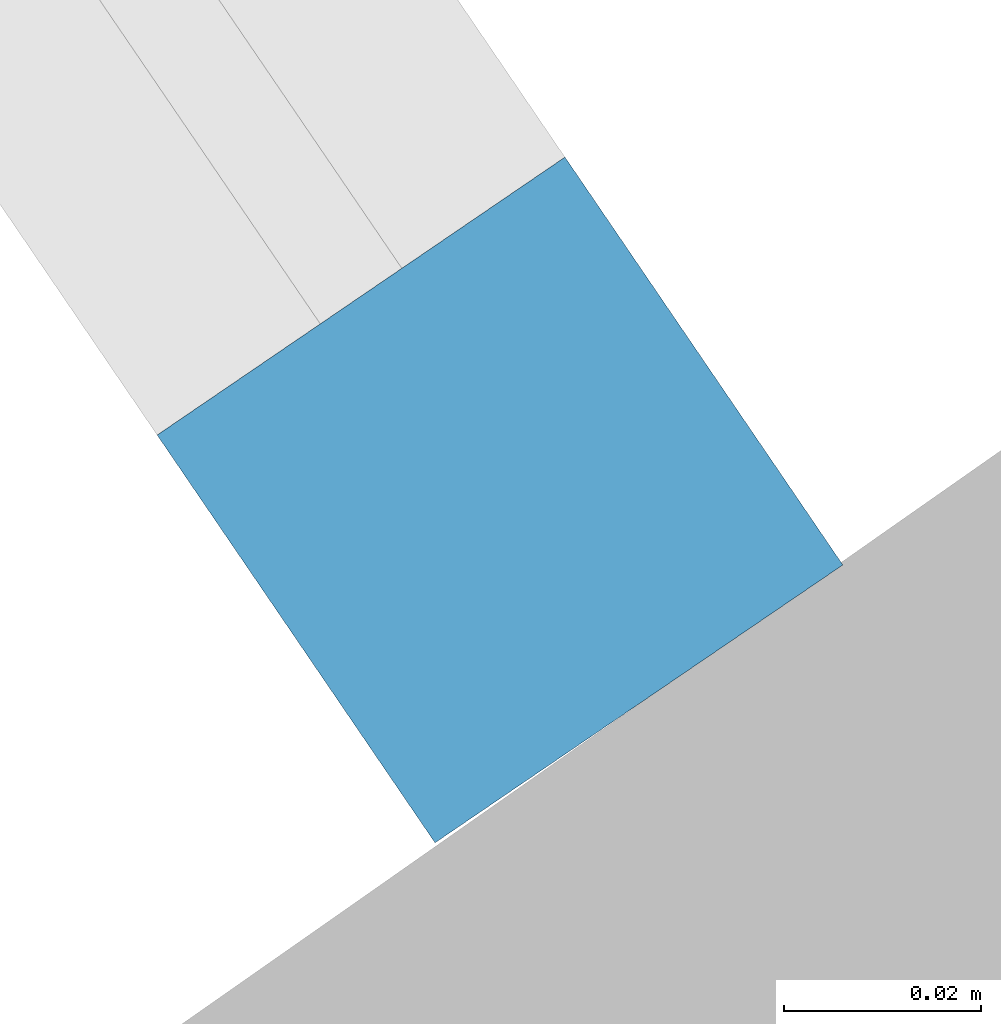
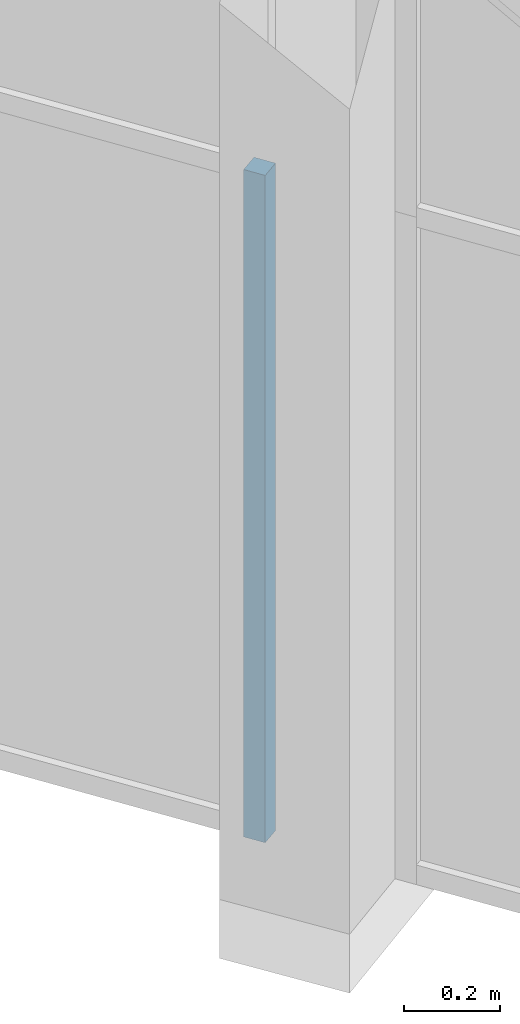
# One storey, part 11 of 157: 1 member, 1 element without a shape of its own.
"""IFC2X3 building model written with IfcOpenShell, lengths in millimetres."""

from ifc_helpers import new_model, entity, si_unit, converted_unit, derived_unit, direction, frame, origin, origin_2d_with_axis, place, context, subcontext, project, spatial, rectangle, extrude, source, transform, mapped, material, type_object, type_shapes, element, aggregate, save


model = new_model("IFC2X3")

# Units and contexts
model_context = context("Model", 3, precision=0.01, world=origin(), true_north=direction((6.123031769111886e-17, 1.0)))
body_context = subcontext(model_context, "Body", "Model", "MODEL_VIEW")
ifc_project = project(units=[si_unit("LENGTHUNIT", "METRE", prefix="MILLI"), si_unit("AREAUNIT", "SQUARE_METRE"), si_unit("VOLUMEUNIT", "CUBIC_METRE"), converted_unit("PLANEANGLEUNIT", "DEGREE", entity("IfcRatioMeasure", 0.017453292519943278), si_unit("PLANEANGLEUNIT", "RADIAN"), dimensions=[0, 0, 0, 0, 0, 0, 0]), si_unit("MASSUNIT", "GRAM", prefix="KILO"), derived_unit("MASSDENSITYUNIT", [(si_unit("MASSUNIT", "GRAM", prefix="KILO"), 1), (si_unit("LENGTHUNIT", "METRE"), -3)]), derived_unit("MOMENTOFINERTIAUNIT", [(si_unit("LENGTHUNIT", "METRE"), 4)]), si_unit("TIMEUNIT", "SECOND"), si_unit("FREQUENCYUNIT", "HERTZ"), si_unit("THERMODYNAMICTEMPERATUREUNIT", "DEGREE_CELSIUS"), derived_unit("THERMALTRANSMITTANCEUNIT", [(si_unit("MASSUNIT", "GRAM", prefix="KILO"), 1), (si_unit("THERMODYNAMICTEMPERATUREUNIT", "KELVIN"), -1), (si_unit("TIMEUNIT", "SECOND"), -3)]), derived_unit("THERMALCONDUCTANCEUNIT", [(si_unit("MASSUNIT", "GRAM", prefix="KILO"), 1), (si_unit("LENGTHUNIT", "METRE"), 1), (si_unit("THERMODYNAMICTEMPERATUREUNIT", "KELVIN"), -1), (si_unit("TIMEUNIT", "SECOND"), -3)]), derived_unit("VOLUMETRICFLOWRATEUNIT", [(si_unit("LENGTHUNIT", "METRE"), 3), (si_unit("TIMEUNIT", "SECOND"), -1)]), derived_unit("MASSFLOWRATEUNIT", [(si_unit("MASSUNIT", "GRAM", prefix="KILO"), 1), (si_unit("TIMEUNIT", "SECOND"), -1)]), derived_unit("ROTATIONALFREQUENCYUNIT", [(si_unit("TIMEUNIT", "SECOND"), -1)]), si_unit("ELECTRICCURRENTUNIT", "AMPERE"), si_unit("ELECTRICVOLTAGEUNIT", "VOLT"), si_unit("POWERUNIT", "WATT"), converted_unit("FORCEUNIT", "KIP", entity("IfcRatioMeasure", 2.088543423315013e-05), si_unit("FORCEUNIT", "NEWTON"), dimensions=[1, 1, -2, 0, 0, 0, 0]), si_unit("ILLUMINANCEUNIT", "LUX"), si_unit("LUMINOUSFLUXUNIT", "LUMEN"), si_unit("LUMINOUSINTENSITYUNIT", "CANDELA"), derived_unit("USERDEFINED", [(si_unit("MASSUNIT", "GRAM", prefix="KILO"), -1), (si_unit("LENGTHUNIT", "METRE"), -2), (si_unit("TIMEUNIT", "SECOND"), 3), (si_unit("LUMINOUSFLUXUNIT", "LUMEN"), 1)]), derived_unit("USERDEFINED", [(si_unit("MASSUNIT", "GRAM", prefix="KILO"), 1), (si_unit("LENGTHUNIT", "METRE"), 3), (si_unit("TIMEUNIT", "SECOND"), -3), (si_unit("ELECTRICCURRENTUNIT", "AMPERE"), -2)]), derived_unit("USERDEFINED", [(si_unit("LENGTHUNIT", "METRE"), 2), (si_unit("TIMEUNIT", "SECOND"), -2)]), derived_unit("SOUNDPOWERUNIT", [(si_unit("MASSUNIT", "GRAM", prefix="KILO"), 1), (si_unit("LENGTHUNIT", "METRE"), 2), (si_unit("TIMEUNIT", "SECOND"), -3)]), derived_unit("SOUNDPRESSUREUNIT", [(si_unit("MASSUNIT", "GRAM", prefix="KILO"), 1), (si_unit("LENGTHUNIT", "METRE"), -1), (si_unit("TIMEUNIT", "SECOND"), -2)]), derived_unit("LINEARVELOCITYUNIT", [(si_unit("LENGTHUNIT", "METRE"), 1), (si_unit("TIMEUNIT", "SECOND"), -1)]), si_unit("PRESSUREUNIT", "PASCAL"), derived_unit("USERDEFINED", [(si_unit("LENGTHUNIT", "METRE"), -2), (si_unit("MASSUNIT", "GRAM", prefix="KILO"), 1), (si_unit("TIMEUNIT", "SECOND"), -2)]), derived_unit("LINEARFORCEUNIT", [(si_unit("MASSUNIT", "GRAM", prefix="KILO"), 1), (si_unit("LENGTHUNIT", "METRE"), 1), (si_unit("TIMEUNIT", "SECOND"), -2), (si_unit("LENGTHUNIT", "METRE"), -1)]), derived_unit("PLANARFORCEUNIT", [(si_unit("MASSUNIT", "GRAM", prefix="KILO"), 1), (si_unit("LENGTHUNIT", "METRE"), 1), (si_unit("TIMEUNIT", "SECOND"), -2), (si_unit("LENGTHUNIT", "METRE"), -2)]), derived_unit("SPECIFICHEATCAPACITYUNIT", [(si_unit("LENGTHUNIT", "METRE"), 2), (si_unit("TIMEUNIT", "SECOND"), -2), (si_unit("THERMODYNAMICTEMPERATUREUNIT", "KELVIN"), -1)]), derived_unit("VAPORPERMEABILITYUNIT", [(si_unit("TIMEUNIT", "SECOND"), 1), (si_unit("LENGTHUNIT", "METRE"), -1)]), derived_unit("DYNAMICVISCOSITYUNIT", [(si_unit("MASSUNIT", "GRAM", prefix="KILO"), 1), (si_unit("LENGTHUNIT", "METRE"), -1), (si_unit("TIMEUNIT", "SECOND"), -1)]), derived_unit("THERMALEXPANSIONCOEFFICIENTUNIT", [(si_unit("THERMODYNAMICTEMPERATUREUNIT", "KELVIN"), -1)])], contexts=[model_context])

# Site, building, storey
site_placement = place(None, frame((0.0, 0.0, 0.0), z_axis=(0.0, 0.0, 1.0), x_axis=(0.8191520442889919, 0.5735764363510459, 0.0)))
site = spatial("IfcSite", under=ifc_project, at=site_placement, Name="Default", CompositionType="ELEMENT")
building_placement = place(site_placement, origin())
building = spatial("IfcBuilding", under=site, at=building_placement, CompositionType="ELEMENT")
storey_placement = place(building_placement, origin())
storey = spatial("IfcBuildingStorey", under=building, at=storey_placement, Name="1.EG +0.00", CompositionType="ELEMENT", Elevation=-4.331468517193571e-12)

# Curtain wall, member
curtain_wall_type = type_object("IfcCurtainWallType", Name="Curtain Wall:Curtain_Wall_CJC 2", PredefinedType="NOTDEFINED")
curtain_wall_placement = place(storey_placement, origin())
curtain_wall = element("IfcCurtainWall", 1, at=curtain_wall_placement, inside=storey, type_object=curtain_wall_type, Name="Curtain Wall:Curtain_Wall_CJC 2", ObjectType="Curtain Wall:Curtain_Wall_CJC 2")
ifc_material = material(Name="Aluminium")
member_type = type_object("IfcMemberType", Name="Rectangular Mullion:5x5", PredefinedType="MULLION", material=ifc_material)
shared_shape = source(origin(), body_context, "Body", "SweptSolid", [
    extrude(rectangle(XDim=50.0, YDim=50.0, at=origin_2d_with_axis()), frame((-25.0, 0.0, -1700.0), z_axis=(0.0, 0.0, 1.0), x_axis=(0.0, -1.0, 0.0)), (0.0, 0.0, 1.0), 1699.9999999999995),
])
type_shapes(member_type, [shared_shape])
member_placement = place(curtain_wall_placement, frame((-223098.59251653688, 111745.23194626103, 1700.0), z_axis=(0.0, 0.0, 1.0), x_axis=(-0.01272958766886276, -0.999918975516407, 0.0)))
member = element("IfcMember", 2, at=member_placement, type_object=member_type, material=ifc_material, Name="Rectangular Mullion:5x5", ObjectType="Rectangular Mullion:5x5", context=body_context, shape_type="MappedRepresentation", body=[
    mapped(shared_shape, transform((0.0, 0.0, 0.0), scale=1.0)),
])
aggregate(curtain_wall, [member])

save(model, "model.ifc")
